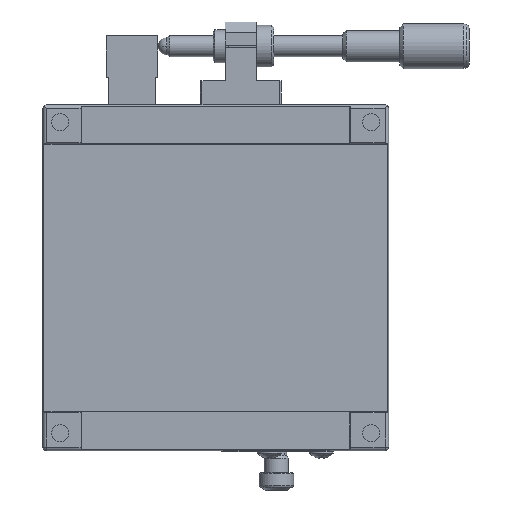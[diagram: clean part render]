
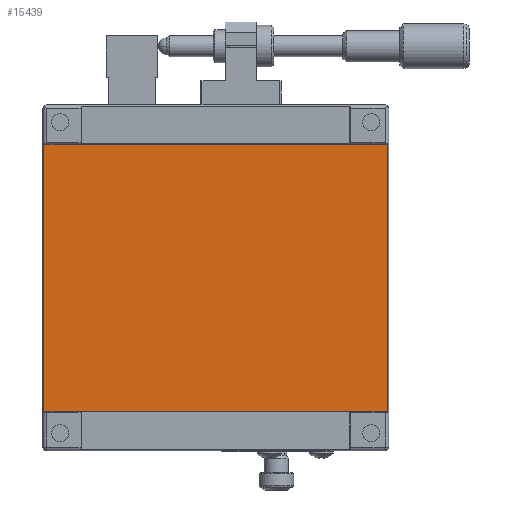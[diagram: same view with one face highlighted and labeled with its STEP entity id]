
A CAD part, front view. The second image highlights one B-rep face of the part: STEP entity #15439.
In plain terms, the highlighted planar face has unit normal (0, -1, 0).
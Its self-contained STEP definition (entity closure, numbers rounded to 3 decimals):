
#3268 = CARTESIAN_POINT ( 'NONE',  ( -41.677, -19.897, 38.7 ) ) ;
#4840 = DIRECTION ( 'NONE',  ( 0., 0., 1. ) ) ;
#5592 = CARTESIAN_POINT ( 'NONE',  ( 58.037, -19.897, 38.7 ) ) ;
#7102 = DIRECTION ( 'NONE',  ( 0., 0., 1. ) ) ;
#7417 = FACE_OUTER_BOUND ( 'NONE', #38334, .T. ) ;
#8559 = LINE ( 'NONE', #5592, #45240 ) ;
#11791 = PLANE ( 'NONE',  #30110 ) ;
#13489 = EDGE_CURVE ( 'NONE', #41630, #17676, #24952, .T. ) ;
#13538 = CARTESIAN_POINT ( 'NONE',  ( 57.751, -19.897, -38.7 ) ) ;
#15439 = ADVANCED_FACE ( 'NONE', ( #7417 ), #11791, .F. ) ;
#15555 = VERTEX_POINT ( 'NONE', #30302 ) ;
#15592 = VECTOR ( 'NONE', #7102, 1000. ) ;
#16718 = ORIENTED_EDGE ( 'NONE', *, *, #25282, .T. ) ;
#17676 = VERTEX_POINT ( 'NONE', #44056 ) ;
#18264 = CARTESIAN_POINT ( 'NONE',  ( 58.037, -19.897, -38.7 ) ) ;
#18969 = CARTESIAN_POINT ( 'NONE',  ( 58.037, -19.897, 38.7 ) ) ;
#21696 = ORIENTED_EDGE ( 'NONE', *, *, #44536, .F. ) ;
#21842 = DIRECTION ( 'NONE',  ( -1., 0., 0. ) ) ;
#24792 = CARTESIAN_POINT ( 'NONE',  ( 57.751, -19.897, -38.7 ) ) ;
#24952 = LINE ( 'NONE', #3268, #44972 ) ;
#25282 = EDGE_CURVE ( 'NONE', #35573, #15555, #35638, .T. ) ;
#26089 = DIRECTION ( 'NONE',  ( 0., 1., 0. ) ) ;
#26885 = CARTESIAN_POINT ( 'NONE',  ( -41.677, -19.897, 38.7 ) ) ;
#27039 = DIRECTION ( 'NONE',  ( -1., 0., 0. ) ) ;
#28120 = DIRECTION ( 'NONE',  ( 0., 0., -1. ) ) ;
#30110 = AXIS2_PLACEMENT_3D ( 'NONE', #18969, #26089, #4840 ) ;
#30302 = CARTESIAN_POINT ( 'NONE',  ( 57.751, -19.897, 38.7 ) ) ;
#34281 = VECTOR ( 'NONE', #21842, 1000. ) ;
#34919 = ORIENTED_EDGE ( 'NONE', *, *, #40112, .T. ) ;
#35573 = VERTEX_POINT ( 'NONE', #13538 ) ;
#35638 = LINE ( 'NONE', #24792, #15592 ) ;
#38334 = EDGE_LOOP ( 'NONE', ( #34919, #41769, #21696, #16718 ) ) ;
#40112 = EDGE_CURVE ( 'NONE', #15555, #41630, #8559, .T. ) ;
#41630 = VERTEX_POINT ( 'NONE', #26885 ) ;
#41769 = ORIENTED_EDGE ( 'NONE', *, *, #13489, .T. ) ;
#43706 = LINE ( 'NONE', #18264, #34281 ) ;
#44056 = CARTESIAN_POINT ( 'NONE',  ( -41.677, -19.897, -38.7 ) ) ;
#44536 = EDGE_CURVE ( 'NONE', #35573, #17676, #43706, .T. ) ;
#44972 = VECTOR ( 'NONE', #28120, 1000. ) ;
#45240 = VECTOR ( 'NONE', #27039, 1000. ) ;
